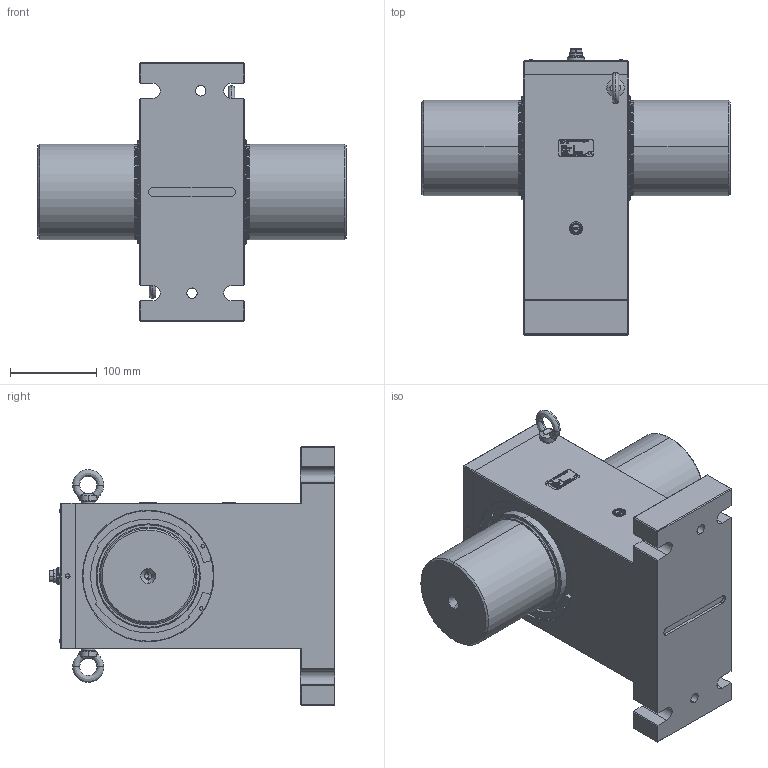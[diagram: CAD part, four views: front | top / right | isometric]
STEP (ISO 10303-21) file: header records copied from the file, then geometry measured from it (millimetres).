
FILE_DESCRIPTION (( 'STEP AP214' ), '1' );
FILE_NAME ('DRVL-VI-F.STEP', '2020-09-01T06:08:19', ( '' ), ( '' ), 'SwSTEP 2.0', 'SolidWorks 2020', '' );
FILE_SCHEMA (( 'AUTOMOTIVE_DESIGN' ));
Length unit declared in the file: millimetre
Products named in the file (1): DRVL-VI-F
Bounding box: 355 x 329.1 x 298 mm (x, y, z)
Volume: 8487711.3 mm3; surface area: 712107.7 mm2
Topology: 39 solids, 71 shells, 3984 faces, 10888 edges, 7126 vertices
Faces by surface type: plane 1712, bspline 944, cylinder 798, cone 230, torus 154, sphere 146
Entity records: 211112 total; most frequent: CARTESIAN_POINT 74532, ORIENTED_EDGE 21056, DIRECTION 15783, EDGE_CURVE 10528, VERTEX_POINT 6934, VECTOR 5763, LINE 5763, AXIS2_PLACEMENT_3D 5010
